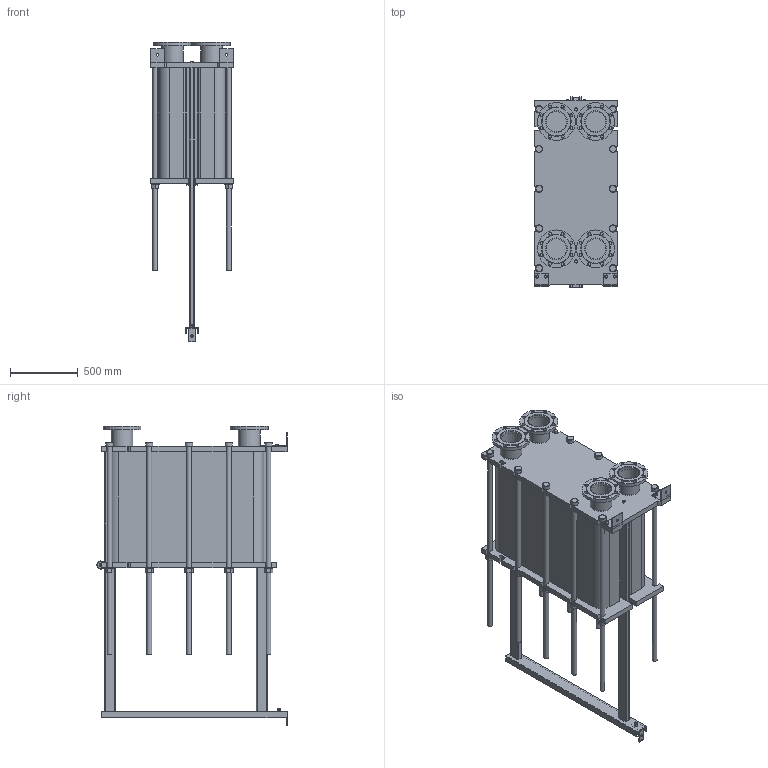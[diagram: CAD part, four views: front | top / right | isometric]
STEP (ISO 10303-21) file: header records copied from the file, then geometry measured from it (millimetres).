
FILE_DESCRIPTION(/* description */ (''),/* implementation_level */ '2;1');
FILE_NAME(/* name */ 'C:\Users\zhuro\Desktop\ENCO\TO\ЭН-041\ЭН-0,5-041-237-1.stp',/* time_stamp */ '2022-06-06T11:08:14+03:00',/* author */ ('zhuro'),/* organization */ (''),/* preprocessor_version */ 'ST-DEVELOPER v18.1',/* originating_system */ 'Autodesk Inventor 2022',/* authorisation */ '');
FILE_SCHEMA (('AUTOMOTIVE_DESIGN { 1 0 10303 214 3 1 1 }'));
Length unit declared in the file: millimetre
Products named in the file (1): ЭН-0,5-041-237-1
Bounding box: 610 x 1406.5 x 2217.5 mm (x, y, z)
Volume: 549977333.4 mm3; surface area: 12045248.8 mm2
Topology: 52 solids, 52 shells, 711 faces, 1696 edges, 1094 vertices
Faces by surface type: plane 487, cylinder 177, cone 41, torus 6
Full cylindrical faces by diameter (mm): 8 x4, 10 x2, 16 x8, 18 x3, 22 x32, 36 x24, 50 x1, 54 x10, 60 x12, 151 x4, 161 x8, 280 x4
Entity records: 22667 total; most frequent: CARTESIAN_POINT 5230, DIRECTION 3644, ORIENTED_EDGE 3392, EDGE_CURVE 1696, AXIS2_PLACEMENT_3D 1272, LINE 1100, VECTOR 1100, VERTEX_POINT 1094
